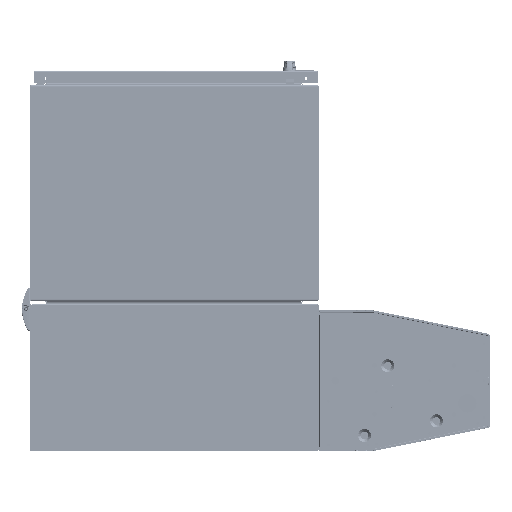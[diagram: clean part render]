
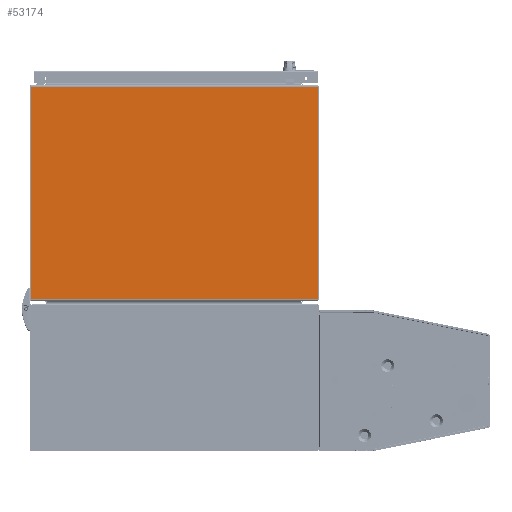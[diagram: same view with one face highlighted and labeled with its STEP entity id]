
A CAD part, front view. The second image highlights one B-rep face of the part: STEP entity #53174.
In plain terms, the highlighted planar face has unit normal (0, -1, 0).
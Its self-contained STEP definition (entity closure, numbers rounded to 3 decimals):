
#10911 = VERTEX_POINT ( 'NONE', #73286 ) ;
#16297 = EDGE_LOOP ( 'NONE', ( #51007, #172678, #33644, #64335 ) ) ;
#17785 = VERTEX_POINT ( 'NONE', #209085 ) ;
#18442 = DIRECTION ( 'NONE',  ( -1., 0., 0. ) ) ;
#30133 = CARTESIAN_POINT ( 'NONE',  ( -298.171, 0., 220.885 ) ) ;
#33644 = ORIENTED_EDGE ( 'NONE', *, *, #97697, .T. ) ;
#35397 = VECTOR ( 'NONE', #18442, 1000. ) ;
#46480 = VERTEX_POINT ( 'NONE', #128121 ) ;
#51007 = ORIENTED_EDGE ( 'NONE', *, *, #166933, .T. ) ;
#52616 = CARTESIAN_POINT ( 'NONE',  ( 298.171, 0., -225. ) ) ;
#53174 = ADVANCED_FACE ( 'NONE', ( #209719 ), #164961, .F. ) ;
#53284 = EDGE_CURVE ( 'NONE', #46480, #206744, #54757, .T. ) ;
#54757 = LINE ( 'NONE', #152874, #97855 ) ;
#55713 = DIRECTION ( 'NONE',  ( 0., 0., 1. ) ) ;
#64335 = ORIENTED_EDGE ( 'NONE', *, *, #53284, .F. ) ;
#65900 = CARTESIAN_POINT ( 'NONE',  ( -298.171, 0., -220.885 ) ) ;
#68925 = DIRECTION ( 'NONE',  ( 0., 0., -1. ) ) ;
#73286 = CARTESIAN_POINT ( 'NONE',  ( 298.171, 0., 220.885 ) ) ;
#84125 = CARTESIAN_POINT ( 'NONE',  ( 298.171, 0., 225. ) ) ;
#84522 = VECTOR ( 'NONE', #163751, 1000. ) ;
#93850 = LINE ( 'NONE', #180194, #35397 ) ;
#97697 = EDGE_CURVE ( 'NONE', #10911, #206744, #93850, .T. ) ;
#97855 = VECTOR ( 'NONE', #55713, 1000. ) ;
#100417 = DIRECTION ( 'NONE',  ( 0., 0., 1. ) ) ;
#109317 = EDGE_CURVE ( 'NONE', #10911, #17785, #202526, .T. ) ;
#121263 = VECTOR ( 'NONE', #68925, 1000. ) ;
#127692 = LINE ( 'NONE', #65900, #84522 ) ;
#128121 = CARTESIAN_POINT ( 'NONE',  ( -298.171, 0., -220.885 ) ) ;
#152874 = CARTESIAN_POINT ( 'NONE',  ( -298.171, 0., -225. ) ) ;
#163751 = DIRECTION ( 'NONE',  ( 1., 0., 0. ) ) ;
#164961 = PLANE ( 'NONE',  #195396 ) ;
#166933 = EDGE_CURVE ( 'NONE', #46480, #17785, #127692, .T. ) ;
#172678 = ORIENTED_EDGE ( 'NONE', *, *, #109317, .F. ) ;
#180194 = CARTESIAN_POINT ( 'NONE',  ( 298.171, 0., 220.885 ) ) ;
#195396 = AXIS2_PLACEMENT_3D ( 'NONE', #84125, #197669, #100417 ) ;
#197669 = DIRECTION ( 'NONE',  ( 0., 1., 0. ) ) ;
#202526 = LINE ( 'NONE', #52616, #121263 ) ;
#206744 = VERTEX_POINT ( 'NONE', #30133 ) ;
#209085 = CARTESIAN_POINT ( 'NONE',  ( 298.171, 0., -220.885 ) ) ;
#209719 = FACE_OUTER_BOUND ( 'NONE', #16297, .T. ) ;
